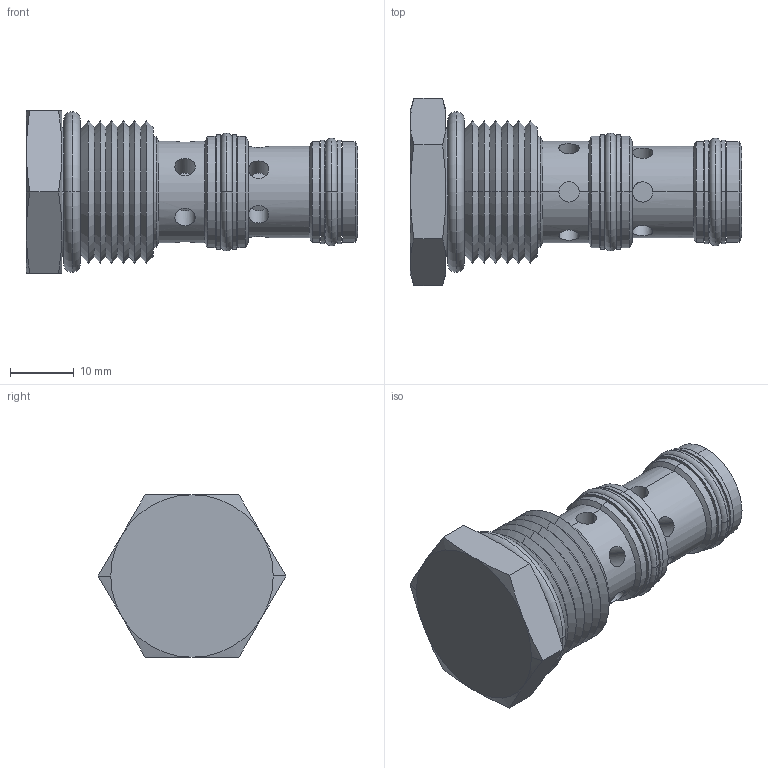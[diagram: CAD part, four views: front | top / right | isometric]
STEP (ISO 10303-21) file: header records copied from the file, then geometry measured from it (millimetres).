
FILE_DESCRIPTION((''),'2;1');
FILE_NAME('U:\Solid model CD\Solid model full\Mechanical\STEP\DFCPB00-3D Full.stp','2008-07-29T09:04:51',('Dan'),(''),'Autodesk Inventor 9','Autodesk Inventor 9','');
FILE_SCHEMA(('AUTOMOTIVE_DESIGN { 1 0 10303 214 1 1 1 1 }'));
Length unit declared in the file: inch
Products named in the file (9): DFCPB00-3D Full; DFCPB00-3D Full1; DFCPB00-3D Full2; DFCPB00-3D Full3; DFCPB00-3D Full4; DFCPB00-3D Full5; DFCPB00-3D Full6; DFCPB00-3D Full7; DFCPB00-3D Full8
Assembly tree (8 placements, depth 2):
  DFCPB00-3D Full
    DFCPB00-3D Full1
    DFCPB00-3D Full2
    DFCPB00-3D Full3
    DFCPB00-3D Full4
    DFCPB00-3D Full5
    DFCPB00-3D Full6
    DFCPB00-3D Full7
    DFCPB00-3D Full8
Bounding box: 51.79 x 29.33 x 25.4 mm (x, y, z)
Volume: 14070.3 mm3; surface area: 7228.5 mm2
Topology: 8 solids, 8 shells, 172 faces, 385 edges, 227 vertices
Faces by surface type: cylinder 64, cone 52, plane 36, torus 18, bspline 2
Entity records: 5348 total; most frequent: CARTESIAN_POINT 1333, DIRECTION 892, ORIENTED_EDGE 738, AXIS2_PLACEMENT_3D 390, EDGE_CURVE 369, VERTEX_POINT 219, CIRCLE 203, EDGE_LOOP 192
